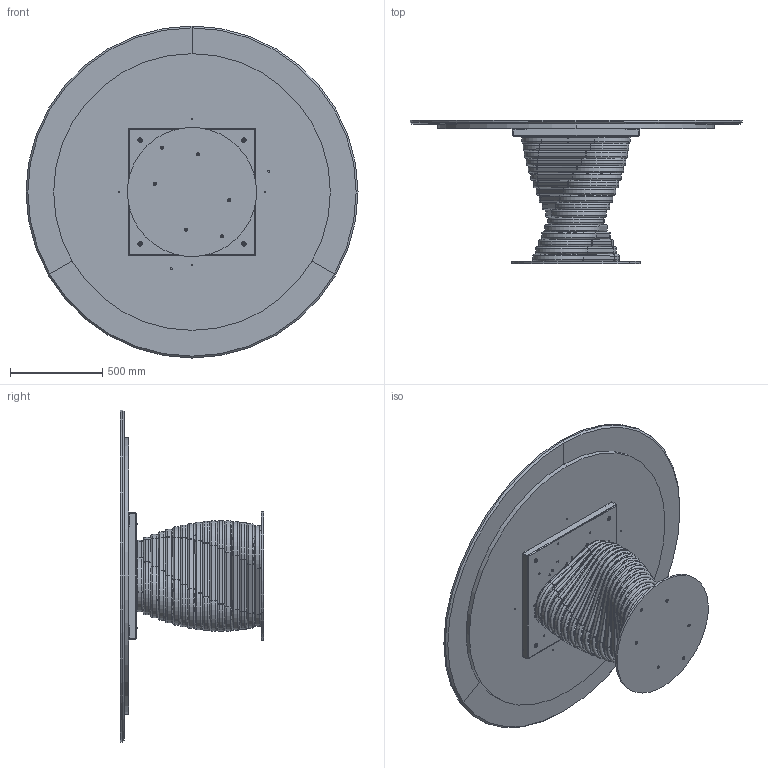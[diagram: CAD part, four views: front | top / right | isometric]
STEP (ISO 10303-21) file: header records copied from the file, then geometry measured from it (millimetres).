
FILE_DESCRIPTION (( 'STEP AP203' ), '1' );
FILE_NAME ('RO13M.STEP', '2024-08-07T13:11:33', ( '' ), ( '' ), 'SwSTEP 2.0', 'SolidWorks 2022', '' );
FILE_SCHEMA (( 'CONFIG_CONTROL_DESIGN' ));
Length unit declared in the file: millimetre
Products named in the file (17): M0XMXX-00-Piani Rotondi in marmo 2024_1800; TRU0000X-00-SOTTO PIANO D.XXXXmm_TRU00006 D.150cm; ROBX00000MED-00-Anello rotolo MEDIO_Default<A macchina>; M0X-00- D. piani marmo_D.1800; ROBX00000SUP-00-Anello rotolo SUPERIORE_Default<A macchina>; TTAV0801 TELAIO UNIVERSALE TONDO-PIASTRINA; M8xXXmm_M8x55mm; M8xXXmm_hex_M8X20mm; TTAV0801-02-TELAIO UNIVERSALE TONDO-VASSOIO; rondella M8_8X24; ROB200000-00-PIASTRA BASE_Ø70cm; TTAV0801-02-TELAIO UNIVERSALE TONDO; ROBX00000INF-00-Anello rotolo INFERIORE_Default<A macchina>; M8xXXmm_M8x20mm; RO13M; ROBX00000-00-ROTOLO BASE 17 ANELLI; COLLO TELAIO UNIVERSALE TTAV0801 CON FERRAMENTA_MTG TOP LEGNO-MARMO-KING
Assembly tree (51 placements, depth 4):
  RO13M
    ROB200000-00-PIASTRA BASE_Ø70cm
    ROBX00000-00-ROTOLO BASE 17 ANELLI
      ROBX00000INF-00-Anello rotolo INFERIORE_Default<A macchina>
      ROBX00000MED-00-Anello rotolo MEDIO_Default<A macchina>  x15
      ROBX00000SUP-00-Anello rotolo SUPERIORE_Default<A macchina>
    M8xXXmm_hex_M8X20mm  x6
    COLLO TELAIO UNIVERSALE TTAV0801 CON FERRAMENTA_MTG TOP LEGNO-MARMO-KING
      TTAV0801-02-TELAIO UNIVERSALE TONDO
        TTAV0801-02-TELAIO UNIVERSALE TONDO-VASSOIO
        TTAV0801 TELAIO UNIVERSALE TONDO-PIASTRINA  x4
      rondella M8_8X24  x4
      M8xXXmm_M8x55mm  x4
    rondella M8_8X24  x4
    M8xXXmm_M8x20mm  x4
    M0XMXX-00-Piani Rotondi in marmo 2024_1800
      TRU0000X-00-SOTTO PIANO D.XXXXmm_TRU00006 D.150cm
      M0X-00- D. piani marmo_D.1800
Bounding box: 1800 x 777 x 1800 mm (x, y, z)
Volume: 106590298.5 mm3; surface area: 15818804.3 mm2
Topology: 100 solids, 100 shells, 1837 faces, 4477 edges, 2806 vertices
Faces by surface type: plane 754, cylinder 671, torus 244, cone 168
Entity records: 25262 total; most frequent: CARTESIAN_POINT 5471, DIRECTION 3715, ORIENTED_EDGE 3444, EDGE_CURVE 1722, AXIS2_PLACEMENT_3D 1379, VERTEX_POINT 1105, VECTOR 957, LINE 957
